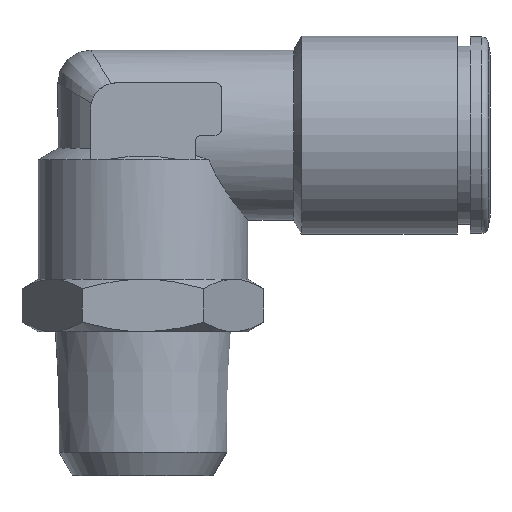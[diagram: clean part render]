
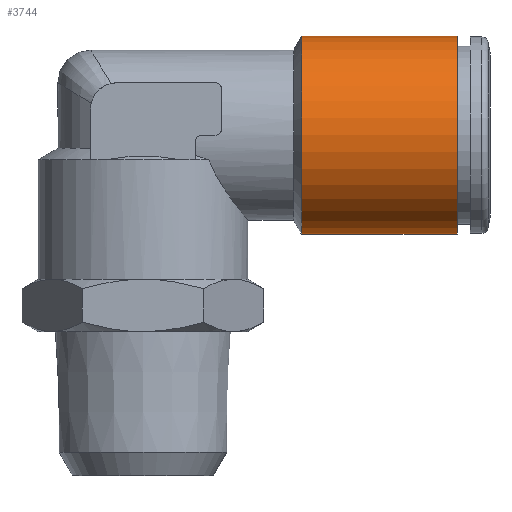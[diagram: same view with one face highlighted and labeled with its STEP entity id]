
A CAD part, front view. The second image highlights one B-rep face of the part: STEP entity #3744.
In plain terms, the highlighted cylindrical face has radius 7.55 mm (diameter 15.1 mm), a full revolution.
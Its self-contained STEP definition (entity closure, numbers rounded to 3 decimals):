
#1832=CYLINDRICAL_SURFACE('',#3566,7.55);
#2142=ORIENTED_EDGE('',*,*,#2629,.T.);
#2143=ORIENTED_EDGE('',*,*,#2630,.F.);
#2393=CIRCLE('',#3565,7.55);
#2394=CIRCLE('',#3567,7.55);
#2487=VERTEX_POINT('',#4555);
#2488=VERTEX_POINT('',#4558);
#2629=EDGE_CURVE('',#2487,#2487,#2393,.T.);
#2630=EDGE_CURVE('',#2488,#2488,#2394,.T.);
#2798=EDGE_LOOP('',(#2142));
#2799=EDGE_LOOP('',(#2143));
#2934=FACE_BOUND('',#2798,.T.);
#2935=FACE_BOUND('',#2799,.T.);
#3213=DIRECTION('',(-1.,0.,0.));
#3214=DIRECTION('',(0.,7.55,0.));
#3215=DIRECTION('',(-1.,0.,0.));
#3216=DIRECTION('',(0.,1.,0.));
#3217=DIRECTION('',(-1.,0.,0.));
#3218=DIRECTION('',(0.,7.55,0.));
#3565=AXIS2_PLACEMENT_3D('',#4556,#3213,#3214);
#3566=AXIS2_PLACEMENT_3D('',#4557,#3215,#3216);
#3567=AXIS2_PLACEMENT_3D('',#4559,#3217,#3218);
#3744=ADVANCED_FACE('',(#2934,#2935),#1832,.T.);
#4555=CARTESIAN_POINT('',(37.673,26.688,0.));
#4556=CARTESIAN_POINT('',(37.673,19.138,0.));
#4557=CARTESIAN_POINT('',(37.673,19.138,0.));
#4558=CARTESIAN_POINT('',(25.779,26.688,0.));
#4559=CARTESIAN_POINT('',(25.779,19.138,0.));
